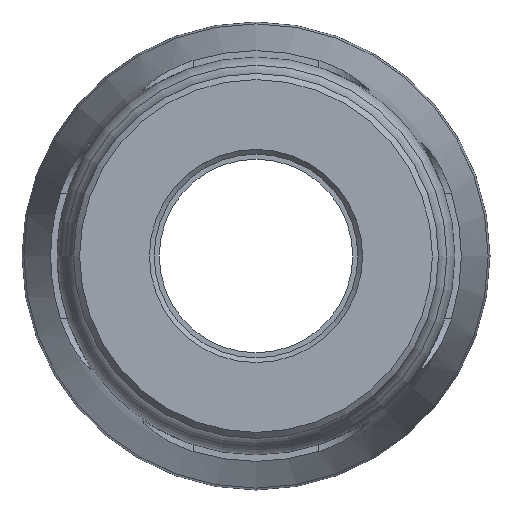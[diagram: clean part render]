
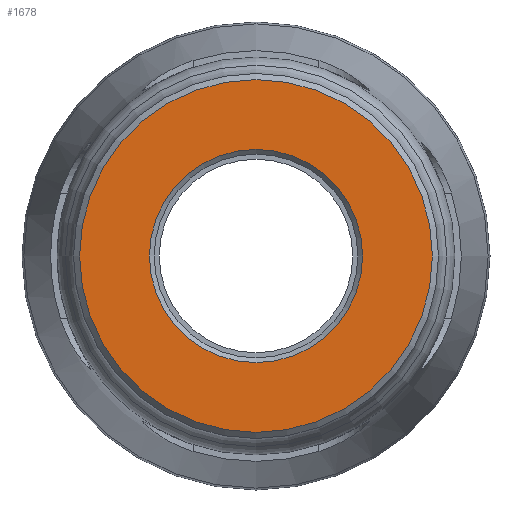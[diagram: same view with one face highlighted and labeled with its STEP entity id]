
A CAD part, left-side view. The second image highlights one B-rep face of the part: STEP entity #1678.
In plain terms, the highlighted planar face has unit normal (-1, 0, 0).
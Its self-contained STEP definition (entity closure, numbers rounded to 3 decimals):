
#23=FACE_BOUND('',#400,.T.);
#55=PLANE('',#1829);
#291=FACE_OUTER_BOUND('',#399,.T.);
#399=EDGE_LOOP('',(#1155));
#400=EDGE_LOOP('',(#1156));
#543=CIRCLE('',#1828,23.453);
#544=CIRCLE('',#1830,38.825);
#714=VERTEX_POINT('',#2936);
#715=VERTEX_POINT('',#2939);
#885=EDGE_CURVE('',#714,#714,#543,.T.);
#886=EDGE_CURVE('',#715,#715,#544,.T.);
#1155=ORIENTED_EDGE('',*,*,#886,.F.);
#1156=ORIENTED_EDGE('',*,*,#885,.F.);
#1678=ADVANCED_FACE('',(#291,#23),#55,.T.);
#1828=AXIS2_PLACEMENT_3D('',#2937,#2109,#2110);
#1829=AXIS2_PLACEMENT_3D('',#2938,#2111,#2112);
#1830=AXIS2_PLACEMENT_3D('',#2940,#2113,#2114);
#2109=DIRECTION('center_axis',(-1.,0.,0.));
#2110=DIRECTION('ref_axis',(0.,-1.,0.));
#2111=DIRECTION('center_axis',(-1.,0.,0.));
#2112=DIRECTION('ref_axis',(0.,0.,1.));
#2113=DIRECTION('center_axis',(1.,0.,0.));
#2114=DIRECTION('ref_axis',(0.,-1.,0.));
#2936=CARTESIAN_POINT('',(0.,23.453,0.));
#2937=CARTESIAN_POINT('Origin',(0.,0.,0.));
#2938=CARTESIAN_POINT('Origin',(0.,40.17,0.));
#2939=CARTESIAN_POINT('',(0.,38.825,0.));
#2940=CARTESIAN_POINT('Origin',(0.,0.,0.));
